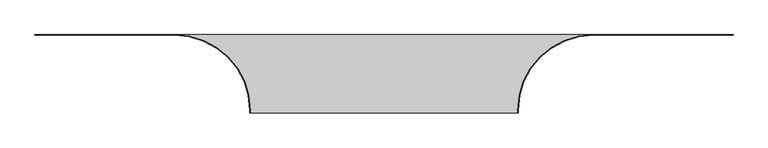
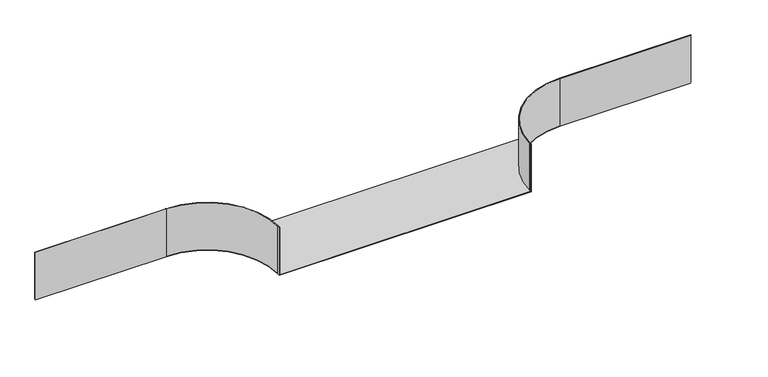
"""IFC4 building model written with IfcOpenShell, lengths in millimetres: cable carrier fitting geometry, BAKS_Horizontal addon tee : TKDJ_H100."""

from ifc_helpers import new_model, si_unit, frame, origin, place, context, project, spatial, polyline, circle_curve, source, transform, mapped, element, save
from ifc_brep_helpers import plane_surface, cylinder_surface, revolved_surface, advanced_brep


def cable_carrier_fitting_4562ccd4(model_context):
    return source(origin(), model_context, "Body", "AdvancedBrep", [
        advanced_brep(
        [(-250.0, -291.0, 50.0), (-250.0, -296.0, 50.0), (-249.0, -296.0, 50.0), (-249.0, -291.0, 50.0), (-390.0, -150.0, 50.0), (-650.0, -150.0, 50.0), (-650.0, -151.0, 50.0), (-390.0, -151.0, 50.0), (250.0, -291.0, 50.0), (390.0, -151.0, 50.0), (650.0, -151.0, 50.0), (650.0, -150.0, 50.0), (390.0, -150.0, 50.0), (249.0, -291.0, 50.0), (249.0, -296.0, 50.0), (250.0, -296.0, 50.0), (-650.0, -151.0, -49.0), (-650.0, -150.0, -49.0), (-649.0, -150.0, -49.0), (-649.0, -151.0, -49.0), (650.0, -150.0, -49.0), (650.0, -151.0, -49.0), (649.0, -151.0, -49.0), (649.0, -150.0, -49.0), (-250.0, -291.0, -49.0), (-250.0, -291.0, -50.0), (-250.0, -296.0, -50.0), (250.0, -296.0, -50.0), (249.0, -296.0, -49.0), (-249.0, -296.0, -49.0), (-249.0, -291.0, -49.0), (-390.0, -150.0, -49.0), (390.0, -150.0, -49.0), (649.0, -150.0, -50.0), (-649.0, -150.0, -50.0), (-649.0, -151.0, -50.0), (-390.0, -151.0, -50.0), (-390.0, -151.0, -49.0), (250.0, -291.0, -49.0), (390.0, -151.0, -49.0), (390.0, -151.0, -50.0), (649.0, -151.0, -50.0), (249.0, -291.0, -49.0), (250.0, -291.0, -50.0)],
        [
            (0, 1),
            (1, 2),
            (2, 3),
            (3, 4, circle_curve(frame((-390.0, -291.0, 50.0), z_axis=(0.0, 0.0, 1.0), x_axis=(1.0, 0.0, 0.0)), 141.0)),
            (4, 5),
            (5, 6),
            (6, 7),
            (7, 0, circle_curve(frame((-390.0, -291.0, 50.0), z_axis=(0.0, 0.0, -1.0), x_axis=(1.0, 0.0, 0.0)), 140.0)),
            (8, 9, circle_curve(frame((390.0, -291.0, 50.0), z_axis=(0.0, 0.0, -1.0), x_axis=(1.0, 0.0, 0.0)), 140.0)),
            (9, 10),
            (10, 11),
            (11, 12),
            (12, 13, circle_curve(frame((390.0, -291.0, 50.0), z_axis=(0.0, 0.0, 1.0), x_axis=(1.0, 0.0, 0.0)), 141.0)),
            (13, 14),
            (14, 15),
            (15, 8),
            (16, 17),
            (17, 18),
            (18, 19),
            (19, 16),
            (20, 21),
            (21, 22),
            (22, 23),
            (23, 20),
            (0, 24),
            (24, 25),
            (25, 26),
            (26, 1),
            (26, 27),
            (27, 15),
            (14, 28),
            (28, 29),
            (29, 2),
            (29, 30),
            (30, 3),
            (30, 31, circle_curve(frame((-390.0, -291.0, -49.0), z_axis=(0.0, 0.0, 1.0), x_axis=(1.0, 0.0, 0.0)), 141.0)),
            (31, 4),
            (31, 32),
            (32, 12),
            (11, 20),
            (23, 33),
            (33, 34),
            (34, 18),
            (17, 5),
            (6, 16),
            (19, 35),
            (35, 36),
            (36, 37),
            (37, 7),
            (37, 24, circle_curve(frame((-390.0, -291.0, -49.0), z_axis=(0.0, 0.0, -1.0), x_axis=(1.0, 0.0, 0.0)), 140.0)),
            (8, 38),
            (38, 39, circle_curve(frame((390.0, -291.0, -49.0), z_axis=(0.0, 0.0, -1.0), x_axis=(1.0, 0.0, 0.0)), 140.0)),
            (39, 9),
            (39, 40),
            (40, 41),
            (41, 22),
            (21, 10),
            (32, 42, circle_curve(frame((390.0, -291.0, -49.0), z_axis=(0.0, 0.0, 1.0), x_axis=(1.0, 0.0, 0.0)), 141.0)),
            (42, 13),
            (42, 28),
            (27, 43),
            (43, 38),
            (25, 36, circle_curve(frame((-390.0, -291.0, -50.0), z_axis=(0.0, 0.0, 1.0), x_axis=(1.0, 0.0, 0.0)), 140.0)),
            (35, 34),
            (33, 41),
            (40, 43, circle_curve(frame((390.0, -291.0, -50.0), z_axis=(0.0, 0.0, 1.0), x_axis=(1.0, 0.0, 0.0)), 140.0)),
        ],
        [
            plane_surface(frame((-250.0, -291.0, 50.0), z_axis=(0.0, 0.0, 1.0), x_axis=(0.0, -1.0, 0.0))),
            plane_surface(frame((-250.0, -291.0, -49.0), z_axis=(0.0, 0.0, -1.0), x_axis=(0.0, 1.0, 0.0))),
            plane_surface(frame((-250.0, -291.0, 50.0), z_axis=(-1.0, 0.0, 0.0), x_axis=(0.0, 0.0, -1.0))),
            plane_surface(frame((-250.0, -296.0, 50.0), z_axis=(0.0, -1.0, 0.0), x_axis=(0.0, 0.0, -1.0))),
            plane_surface(frame((-249.0, -296.0, 50.0), z_axis=(1.0, 0.0, 0.0), x_axis=(0.0, 0.0, -1.0))),
            cylinder_surface(frame((-390.0, -291.0, -49.0), z_axis=(0.0, 0.0, 1.0), x_axis=(1.0, 0.0, 0.0)), 141.0),
            plane_surface(frame((-390.0, -150.0, 50.0), z_axis=(0.0, 1.0, 0.0), x_axis=(0.0, 0.0, -1.0))),
            plane_surface(frame((-650.0, -151.0, 50.0), z_axis=(0.0, -1.0, 0.0), x_axis=(0.0, 0.0, -1.0))),
            revolved_surface(polyline([(-250.0, -291.0, -49.0), (-250.0, -291.0, 50.0)]), (-390.0, -291.0, -49.0), (0.0, 0.0, -1.0)),
            revolved_surface(polyline([(530.0, -291.0, -49.0), (530.0, -291.0, 50.0)]), (390.0, -291.0, 0.0), (0.0, 0.0, -1.0)),
            plane_surface(frame((390.0, -151.0, 50.0), z_axis=(0.0, -1.0, 0.0), x_axis=(0.0, 0.0, -1.0))),
            cylinder_surface(frame((390.0, -291.0, 0.0), z_axis=(0.0, 0.0, 1.0), x_axis=(1.0, 0.0, 0.0)), 141.0),
            plane_surface(frame((249.0, -291.0, 50.0), z_axis=(-1.0, 0.0, 0.0), x_axis=(0.0, 0.0, -1.0))),
            plane_surface(frame((250.0, -296.0, 50.0), z_axis=(1.0, 0.0, 0.0), x_axis=(0.0, 0.0, -1.0))),
            plane_surface(frame((-250.0, -291.0, -49.0), z_axis=(0.0, 0.0, 1.0), x_axis=(0.0, -1.0, 0.0))),
            plane_surface(frame((-250.0, -291.0, -50.0), z_axis=(0.0, 0.0, -1.0), x_axis=(0.0, 1.0, 0.0))),
            revolved_surface(polyline([(530.0, -291.0, -50.0), (530.0, -291.0, -49.0)]), (390.0, -291.0, -50.0), (0.0, 0.0, -1.0)),
            plane_surface(frame((649.0, -151.0, -49.0), z_axis=(1.0, 0.0, 0.0), x_axis=(0.0, 0.0, -1.0))),
            plane_surface(frame((-649.0, -150.0, -49.0), z_axis=(-1.0, 0.0, 0.0), x_axis=(0.0, 0.0, -1.0))),
            revolved_surface(polyline([(-250.0, -291.0, -50.0), (-250.0, -291.0, -49.0)]), (-390.0, -291.0, -50.0), (0.0, 0.0, -1.0)),
            plane_surface(frame((-650.0, -150.0, 50.0), z_axis=(-1.0, 0.0, 0.0), x_axis=(0.0, 0.0, -1.0))),
            plane_surface(frame((650.0, -151.0, 50.0), z_axis=(1.0, 0.0, 0.0), x_axis=(0.0, 0.0, -1.0))),
        ],
        [
            (0, [[1, 2, 3, 4, 5, 6, 7, 8]]),
            (0, [[9, 10, 11, 12, 13, 14, 15, 16]]),
            (1, [[17, 18, 19, 20]]),
            (1, [[21, 22, 23, 24]]),
            (2, [[-1, 25, 26, 27, 28]]),
            (3, [[-2, -28, 29, 30, -15, 31, 32, 33]]),
            (4, [[-3, -33, 34, 35]]),
            (5, [[-4, -35, 36, 37]]),
            (6, [[-5, -37, 38, 39, -12, 40, -24, 41, 42, 43, -18, 44]]),
            (7, [[-7, 45, -20, 46, 47, 48, 49]]),
            (8, [[-8, -49, 50, -25]]),
            (9, [[-9, 51, 52, 53]]),
            (10, [[-10, -53, 54, 55, 56, -22, 57]]),
            (11, [[-13, -39, 58, 59]]),
            (12, [[-14, -59, 60, -31]]),
            (13, [[-16, -30, 61, 62, -51]]),
            (14, [[-32, -60, -58, -38, -36, -34]]),
            (15, [[63, -47, 64, -42, 65, -55, 66, -61, -29, -27]]),
            (16, [[-66, -54, -52, -62]]),
            (17, [[-65, -41, -23, -56]]),
            (18, [[-64, -46, -19, -43]]),
            (19, [[-63, -26, -50, -48]]),
            (20, [[-6, -44, -17, -45]]),
            (21, [[-11, -57, -21, -40]]),
        ],
    ),
    ])


if __name__ == "__main__":
    model = new_model("IFC4")
    model_context = context("Model", 3, world=origin())
    ifc_project = project(units=[si_unit("LENGTHUNIT", "METRE", prefix="MILLI")], contexts=[model_context])
    site = spatial("IfcSite", under=ifc_project)
    building = spatial("IfcBuilding", under=site)
    placement = place(None, origin())
    cable_carrier_fitting_shape = cable_carrier_fitting_4562ccd4(model_context)
    element("IfcCableCarrierFitting", 1, ObjectType="BAKS_Horizontal addon tee : TKDJ_H100", at=placement, inside=building, context=model_context, shape_type="MappedRepresentation", body=[
        mapped(cable_carrier_fitting_shape, transform((0.0, 0.0, 0.0), x_axis=(1.0, 0.0, 0.0), y_axis=(0.0, 1.0, 0.0), z_axis=(0.0, 0.0, 1.0))),
    ])
    save(model, "model.ifc")
